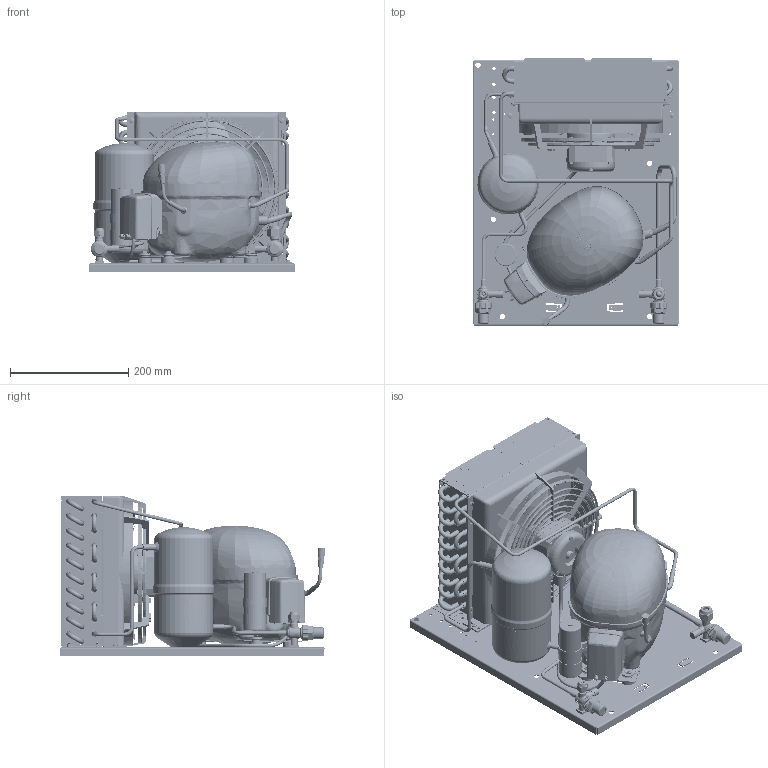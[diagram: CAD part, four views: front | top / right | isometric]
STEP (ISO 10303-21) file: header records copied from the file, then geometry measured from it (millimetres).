
FILE_DESCRIPTION(/* description */ ('Unknown'),/* implementation_level */ '2;1');
FILE_NAME(/* name */ '2298-0051',/* time_stamp */ '2021-12-15T09:22:43+01:00',/* author */ ('Unknown'),/* organization */ ('Unknown'),/* preprocessor_version */ 'ST-DEVELOPER v16.7',/* originating_system */ 'Solid Edge',/* authorisation */ 'Unknown');
FILE_SCHEMA (('AUTOMOTIVE_DESIGN {1 0 10303 214 3 1 1}'));
Length unit declared in the file: millimetre
Products named in the file (43): 2298-0051; 92505122_oa_0; a230-28; 84DM8X6.9XXESRF00; NLE11MF.2-A-CSIR; 84fm8x12xxxteff00; cg230n; 100_200vs00; 6072_23M8; 6062_22M6; 84v1.8x35xxcopf00; 8392_A; 84RM10X21XXPIAF00; sc18cl-a-csr_piedino; 7210-0003; 7010_22; 7560_2; 7560_3; 7030_3m10; 84a4.2x9.5xtbcf01; 99000082_secop; 84t4.8x8xxxtcca00_oa_1; 84t4.8x8xxxtcca00_oa_2; 84t4.8x8xxxtcca00_oa_3; 84t4.8x8xxxtcca00_oa_4; 680082432; 680063713; 680065422; 680063695; 84dm4x3.6xxesrf00; 99510255_Curva120°; 8351_2; 99510255_Tubo_Curva120°; 1030240f70; r50017306; r50017307; r59700283; 2990210; r50017301; r50017308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
Assembly tree (89 placements, depth 3):
  2298-0051
    92505122_oa_0
    a230-28
    84DM8X6.9XXESRF00
    NLE11MF.2-A-CSIR
    84fm8x12xxxteff00  x2
    cg230n
    100_200vs00
    6072_23M8
    6062_22M6
    84v1.8x35xxcopf00  x4
    8392_A  x3
    84RM10X21XXPIAF00  x4
    sc18cl-a-csr_piedino  x4
    7210-0003  x2
    7010_22
    7560_2
    7560_3
    7030_3m10
    84a4.2x9.5xtbcf01  x4
    99000082_secop
    84t4.8x8xxxtcca00_oa_1
    84t4.8x8xxxtcca00_oa_2
    84t4.8x8xxxtcca00_oa_3
    84t4.8x8xxxtcca00_oa_4
    680082432
    680063713
    680065422
    680063695
    84dm4x3.6xxesrf00  x4
    99510255_Curva120°
      8351_2
      99510255_Tubo_Curva120°
      8392_A
    1030240f70
      r50017306
      r50017307
      r59700283  x15
      2990210  x14
      r50017301
      r50017308
    99000082_SECOP_F-GAS
    aa707710x
    2298-0050_CAVO_VENTOLA
Bounding box: 350 x 452 x 272.12 mm (x, y, z)
Volume: 5205424.5 mm3; surface area: 2312850.9 mm2
Topology: 87 solids, 91 shells, 8489 faces, 21714 edges, 14013 vertices
Faces by surface type: plane 4917, cylinder 1578, bspline 791, torus 626, cone 475, sphere 102
Full cylindrical faces by diameter (mm): 1 x4, 1.2 x4, 1.8 x20, 2.2 x8, 2.31 x5, 2.7 x4, 3 x10, 3.2 x1, 3.242 x4, 3.3 x2, 3.5 x16, 3.6 x4, 3.7 x4, 3.85 x2, 4 x14, 4.1 x1, 4.2 x19, 4.3 x1, 4.4 x4, 4.5 x8, 4.6 x1, 4.66 x4, 4.7 x4, 5 x22, 5.2 x1, 5.4 x2, 5.5 x18, 5.6 x1, 5.9 x1, 6 x22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
Entity records: 316583 total; most frequent: CARTESIAN_POINT 113597, ORIENTED_EDGE 37768, DIRECTION 29553, EDGE_CURVE 18884, VERTEX_POINT 12747, AXIS2_PLACEMENT_3D 10800, FACE_BOUND 10051, EDGE_LOOP 10049
